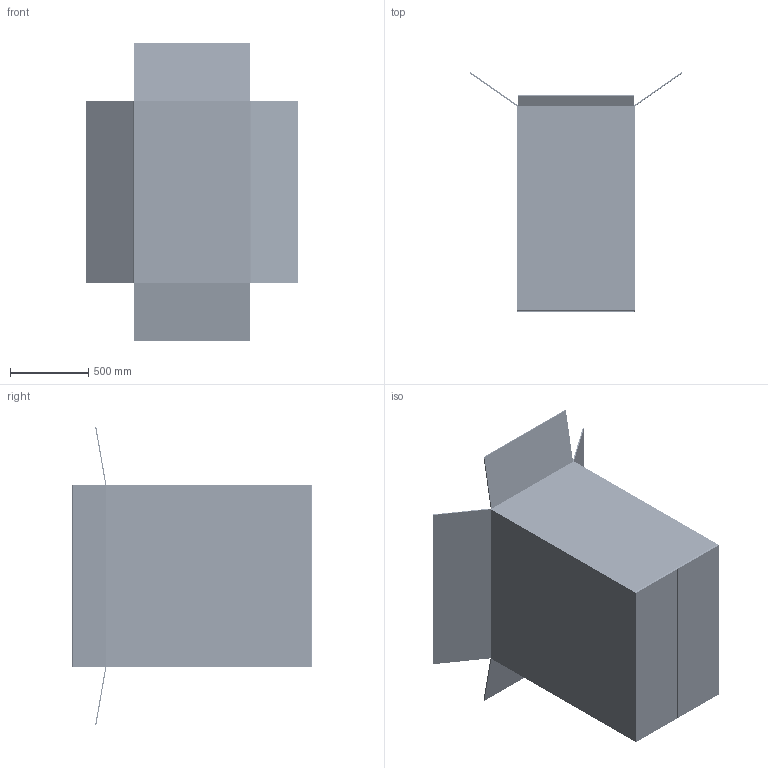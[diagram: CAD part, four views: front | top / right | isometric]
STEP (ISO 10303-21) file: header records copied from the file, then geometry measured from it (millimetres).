
FILE_DESCRIPTION((''),'2;1');
FILE_NAME('BOSE3202-WR_ASM_ASM','2009-09-28T',('hrh'),(''),'PRO/ENGINEER BY PARAMETRIC TECHNOLOGY CORPORATION, 2001280','PRO/ENGINEER BY PARAMETRIC TECHNOLOGY CORPORATION, 2001280','');
FILE_SCHEMA(('CONFIG_CONTROL_DESIGN'));
Length unit declared in the file: millimetre
Products named in the file (107): BOSE3202-BZ-3_1; BOSE3202-BZ-3_3; BOSE3202-BZ-3_4; BOSE3202-BZ-3_6; BOSE3202-BZ-3_7; BOSE3202-BZ-3_5; BOSE3202-BZ-3_ASM_ASM; HORN; CABINET_ASSY_3202_WR; 3202_RAIN_SHIELD_2; PLATE_MNT_COMP_DRIVER_; MANIFOLD_VEE-2; GASKET_INPUT_MANIFOLD; GASKET_OUTPUT_MANIFOLD; MANIFOLD_ASSEMBLY_VEE-2__ASM; COMPRESSION_DRIVER___; TM6X30; UPPER_DIE_CASTING_; LOWER_DIE_CASTING__; GASKET_DRIVER_VEE-2; DRIVER_; GASKET_VEE-2; BARRIER_; LOCK_NUT_M5_; TM5X20; WASHER_5_; GASKET_BARRIER; WASHER_6_; M6X85_GB823; CASTING___ASM; ANGLE_BRACE_RIGGING; INSERT_RIGGING_3_8-16_THREAD; SCREW_3_8_16_RIGGING_POINT; INSERTS_M4; PLATE_DIVIDING; GRILLE_3202; KM6X12___; SCREW-M4__; TA4X15; LOCATING_PAD___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
Assembly tree (345 placements, depth 4):
  BOSE3202-WR_ASM_ASM
    BOSE3202-BZ-3_ASM_ASM  x2
      BOSE3202-BZ-3_1
      BOSE3202-BZ-3_3
      BOSE3202-BZ-3_4
      BOSE3202-BZ-3_6
      BOSE3202-BZ-3_7
      BOSE3202-BZ-3_5
    BOSELT_3202_WR_ASM
      HORN
      CABINET_ASSY_3202_WR
      3202_RAIN_SHIELD_2
      PLATE_MNT_COMP_DRIVER_
      MANIFOLD_ASSEMBLY_VEE-2__ASM  x4
        MANIFOLD_VEE-2
        GASKET_INPUT_MANIFOLD
        GASKET_OUTPUT_MANIFOLD
      COMPRESSION_DRIVER___
      TM6X30  x2
      CASTING___ASM  x4
        UPPER_DIE_CASTING_
        LOWER_DIE_CASTING__
        GASKET_DRIVER_VEE-2
        DRIVER_
        GASKET_VEE-2
        BARRIER_
        LOCK_NUT_M5_
        TM5X20
        WASHER_5_
        GASKET_BARRIER
        WASHER_6_
        M6X85_GB823
      ANGLE_BRACE_RIGGING  x9
      INSERT_RIGGING_3_8-16_THREAD  x16
      SCREW_3_8_16_RIGGING_POINT  x16
      INSERTS_M4  x12
      PLATE_DIVIDING  x3
      GRILLE_3202
      KM6X12___  x4
      SCREW-M4__
      TA4X15  x22
      LOCATING_PAD___
      GASKET_COMP_DRIVER_
      KM4X12__  x4
      C2_
      GASKET_PANEL__3202
      TA4X15_4  x32
      HANDLE_BOX_ASM  x4
        HANDLE_BOX_11
        EVA_HANDLE_BOX_4
        TA4X15_6
        HANDLEGASKET
      INSERTS__  x18
      E09-05468_NX001  x2
      LT3202-III-PANEL_INPUT_WR_ASM
        REAR_PANEL_E09_11147_NX002
        CHAZUO  x2
        LIANJIEBAN
        ZHENZUO  x3
        CHATOU
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Bounding box: 1355.76 x 1527.16 x 1900.64 mm (x, y, z)
Volume: 448999977.8 mm3; surface area: 58524766.9 mm2
Topology: 611 solids, 619 shells, 35696 faces, 90125 edges, 56481 vertices
Faces by surface type: plane 15695, cylinder 9079, bspline 5796, cone 2875, torus 1345, sphere 814, extrusion 92
Entity records: 531025 total; most frequent: CARTESIAN_POINT 319333, ORIENTED_EDGE 46016, DIRECTION 38517, EDGE_CURVE 23008, VERTEX_POINT 14322, AXIS2_PLACEMENT_3D 13792, VECTOR 10933, LINE 10892
